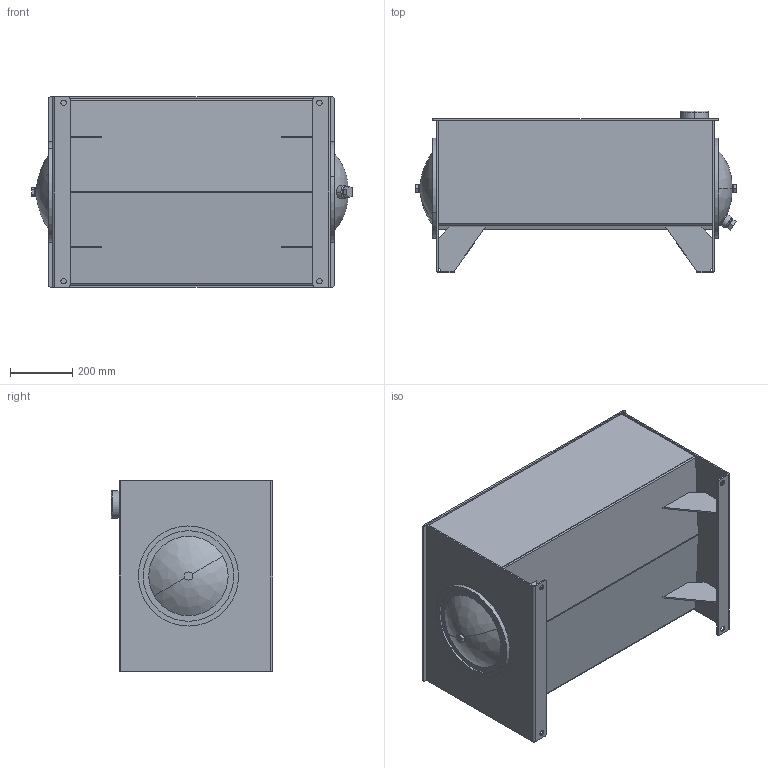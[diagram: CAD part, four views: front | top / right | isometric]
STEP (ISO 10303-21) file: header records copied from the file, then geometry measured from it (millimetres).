
FILE_DESCRIPTION (( 'STEP AP214' ), '1' );
FILE_NAME ('T1-30.STEP', '2019-02-01T13:36:09', ( '' ), ( '' ), 'SwSTEP 2.0', 'SolidWorks 2013', '' );
FILE_SCHEMA (( 'AUTOMOTIVE_DESIGN' ));
Length unit declared in the file: inch
Products named in the file (17): TL-EC-12; 12.00 END COVER; TL-ECD-12; DRAIN; 12.00 END COVER WITH DRAIN; CRUSH WASHER; 12.00 GASKET; 0.625 - 11 BAFFLE NUT; 0.625 - 11 HEX BOLT; FILLER RISER; T1-30-GST; T1-30-BFL; T1-30-BDY; T1-30-EB; T1-30-EA; T1-30-LD; T1-30
Assembly tree (23 placements, depth 3):
  T1-30
    T1-30-LD
    T1-30-EA
    T1-30-EB
    T1-30-BDY
    T1-30-BFL
    T1-30-GST  x4
    FILLER RISER
    TL-ECD-12
      0.625 - 11 HEX BOLT
      0.625 - 11 BAFFLE NUT
      12.00 GASKET
      CRUSH WASHER
      12.00 END COVER WITH DRAIN
      DRAIN
    TL-EC-12
      12.00 END COVER
      12.00 GASKET
      CRUSH WASHER
      0.625 - 11 HEX BOLT
      0.625 - 11 BAFFLE NUT
Bounding box: 1026.65 x 517.52 x 609.6 mm (x, y, z)
Volume: 11489324.7 mm3; surface area: 5708401.2 mm2
Topology: 22 solids, 22 shells, 293 faces, 672 edges, 432 vertices
Faces by surface type: plane 166, cylinder 109, bspline 8, cone 8, torus 2
Entity records: 8489 total; most frequent: CARTESIAN_POINT 1438, DIRECTION 1234, ORIENTED_EDGE 1068, EDGE_CURVE 534, AXIS2_PLACEMENT_3D 462, VERTEX_POINT 340, LINE 310, VECTOR 310
